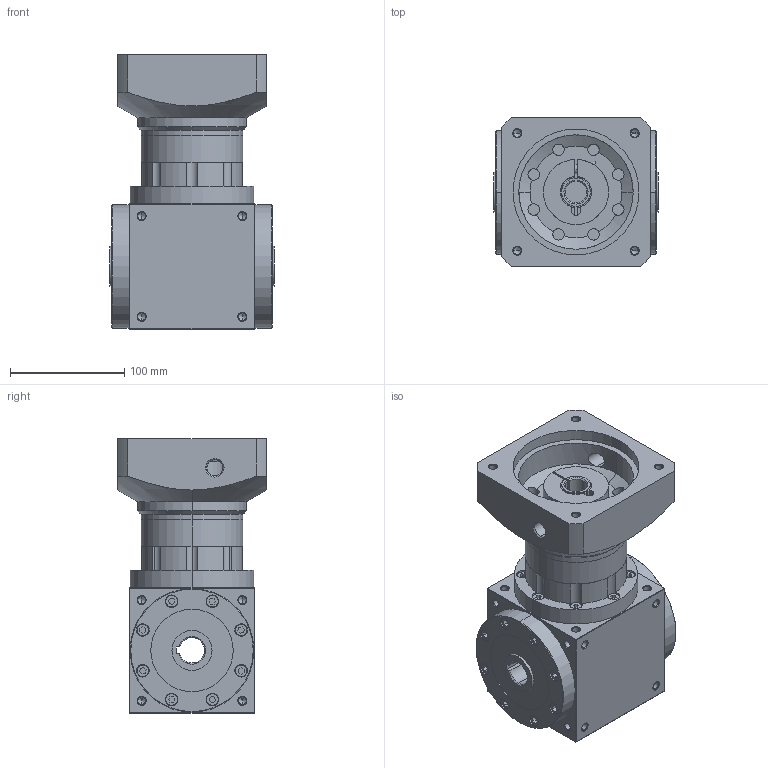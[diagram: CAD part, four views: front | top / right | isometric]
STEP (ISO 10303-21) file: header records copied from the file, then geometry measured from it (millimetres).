
FILE_DESCRIPTION (( 'STEP AP203' ), '1' );
FILE_NAME ('AT120-FH-L2-19-110-145M8.STEP', '2025-08-14T06:31:34', ( 'Windows User' ), ( 'P R C' ), 'SwSTEP 2.0', 'SolidWorks 2016', '' );
FILE_SCHEMA (( 'CONFIG_CONTROL_DESIGN' ));
Length unit declared in the file: millimetre
Products named in the file (7): 输入轴套-24-19; AT120-FH-L2-19-110-145M8; A120-蛌褒眊极-謂怀堤; AT120-怀堤楊擘-蠶講; AT120-单级齿圈; AT120-输入法兰-F-110-M8-145; 输入胀套-27
Assembly tree (6 placements, depth 2):
  AT120-FH-L2-19-110-145M8
    A120-蛌褒眊极-謂怀堤
    AT120-怀堤楊擘-蠶講
    AT120-单级齿圈
    AT120-输入法兰-F-110-M8-145
    输入胀套-27
    输入轴套-24-19
Bounding box: 144 x 130 x 240 mm (x, y, z)
Volume: 2018425.5 mm3; surface area: 319563.1 mm2
Topology: 6 solids, 18 shells, 1468 faces, 3813 edges, 2424 vertices
Faces by surface type: plane 766, cylinder 371, cone 231, bspline 100
Entity records: 51616 total; most frequent: CARTESIAN_POINT 15985, ORIENTED_EDGE 7450, DIRECTION 6862, EDGE_CURVE 3725, VERTEX_POINT 2424, LINE 2398, VECTOR 2398, AXIS2_PLACEMENT_3D 2232
